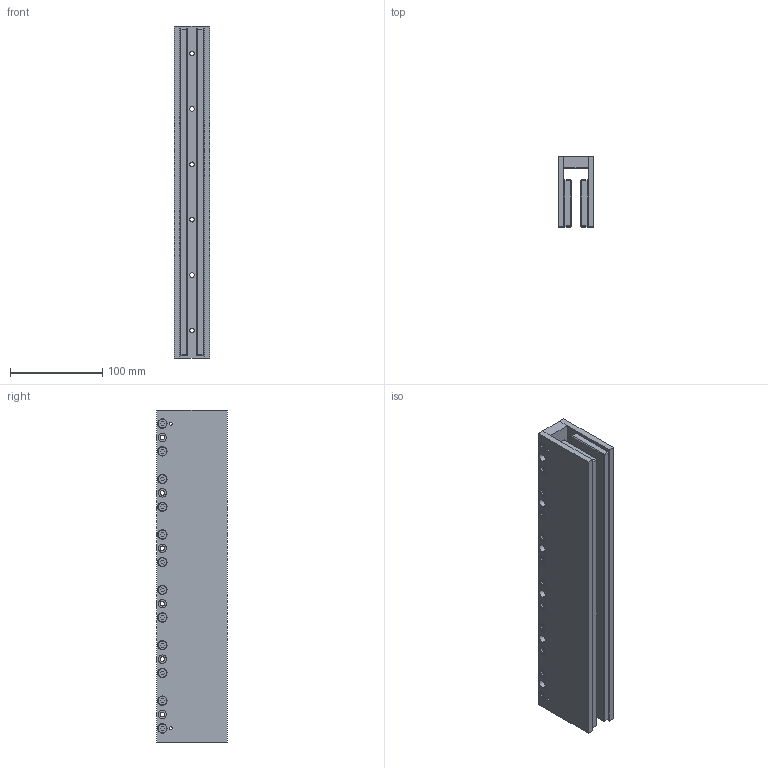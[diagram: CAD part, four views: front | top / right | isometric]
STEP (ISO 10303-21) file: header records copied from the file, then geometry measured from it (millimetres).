
FILE_DESCRIPTION (( 'STEP AP214' ), '1' );
FILE_NAME ('DX50F-TL360.step', '2021-01-04T09:38:42', ( '' ), ( '' ), 'SwSTEP 2.0', 'SolidWorks 2020', '' );
FILE_SCHEMA (( 'AUTOMOTIVE_DESIGN' ));
Length unit declared in the file: millimetre
Products named in the file (1): DX50F-TL360
Bounding box: 38.7 x 76.2 x 359.5 mm (x, y, z)
Volume: 733464.2 mm3; surface area: 163599.8 mm2
Topology: 1 solids, 13 shells, 710 faces, 1538 edges, 960 vertices
Faces by surface type: plane 326, cylinder 320, torus 48, sphere 16
Entity records: 27150 total; most frequent: DIRECTION 3608, CARTESIAN_POINT 3265, ORIENTED_EDGE 3044, EDGE_CURVE 1522, AXIS2_PLACEMENT_3D 1399, VERTEX_POINT 960, EDGE_LOOP 876, VECTOR 810
